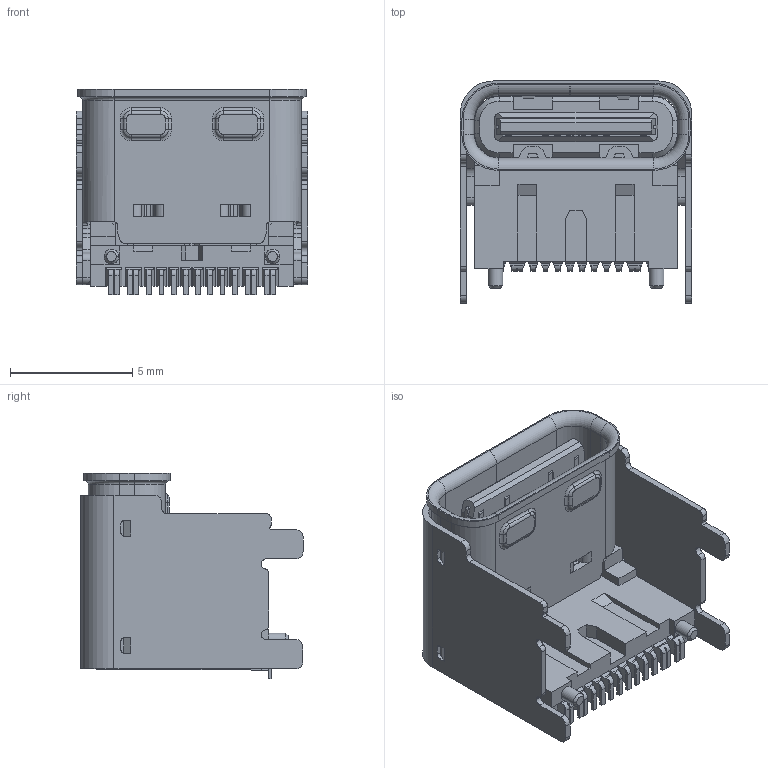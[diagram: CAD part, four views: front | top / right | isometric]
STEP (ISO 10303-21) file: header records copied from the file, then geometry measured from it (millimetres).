
FILE_DESCRIPTION (( 'STEP AP203' ), '1' );
FILE_NAME ('CF等齬16P啣奻CH=5.9拸結啣 ACF001-4-0HR.stp', '2024-06-20T06:31:11', ( '' ), ( '' ), 'SwSTEP 2.0', 'SolidWorks 2023', '' );
FILE_SCHEMA (( 'CONFIG_CONTROL_DESIGN' ));
Length unit declared in the file: millimetre
Products named in the file (1): CF单排16P板上CH=5.9无挡板  ACF001-4-0HR
Bounding box: 9.47 x 9.09 x 8.4 mm (x, y, z)
Volume: 228.5 mm3; surface area: 987 mm2
Topology: 1 solids, 16 shells, 1494 faces, 4121 edges, 2692 vertices
Faces by surface type: plane 979, cylinder 333, bspline 78, torus 76, cone 28
Entity records: 51587 total; most frequent: CARTESIAN_POINT 13623, ORIENTED_EDGE 8242, DIRECTION 7377, EDGE_CURVE 4121, LINE 2971, VECTOR 2971, VERTEX_POINT 2692, AXIS2_PLACEMENT_3D 2203
